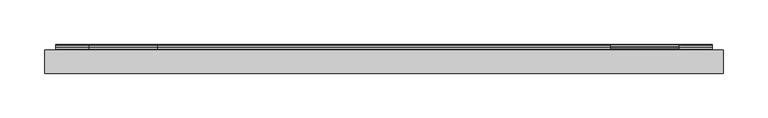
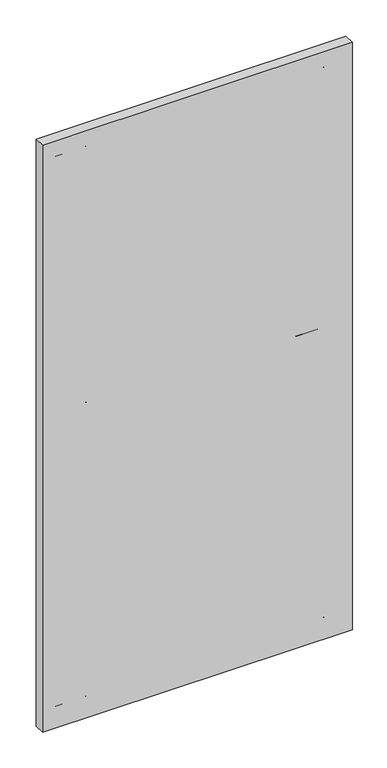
"""IFC4 building model written with IfcOpenShell, lengths in millimetres: furniture geometry, Geiger_GeigerOneCasegoods_WallTileTopTileorWallMounted : Vertical Veneer 30Wx 1.25Dx 60H."""

from ifc_helpers import new_model, si_unit, point, frame, frame_2d, origin, origin_with_axes, place, context, project, spatial, polyline, circle_curve, trimmed, segment, composite_curve, outline, extrude, source, transform, mapped, element, save


def furniture_6f389571(model_context):
    return source(origin(), model_context, "Body", "SweptSolid", [
        extrude(outline(composite_curve([segment(polyline([(2.8956, 38.227), (2.8956, 31.2928), (3.7084, 30.5054), (5.6134, 30.5054), (6.4008, 29.6926), (6.4008, -2.0066), (5.1054, -2.0066), (3.5052, -0.4064), (3.5052, 24.1808), (2.6924, 24.9936), (0.8128, 24.9936), (0.0, 25.781), (0.0, 39.1922)]), True, "CONTINUOUS"), segment(trimmed(circle_curve(frame_2d((0.8034421, 39.1828421)), 0.8034966), [point((0.0, 39.1922))], [point((1.3716, 39.751))], False, "CARTESIAN"), True, "CONTINUOUS"), segment(polyline([(1.3716, 39.751), (2.8956, 38.227)]), True, "CONTINUOUS")], self_intersect=False)), frame((12.5, 0.0, 0.0), z_axis=(1.0, 0.0, 0.0), x_axis=(0.0, 1.0, 0.0)), (0.0, 0.0, 1.0), 735.6),
        extrude(outline(composite_curve([segment(polyline([(-2.8956, 808.354), (-2.8956, 832.9412), (-1.2954, 834.5414), (0.0, 834.5414), (0.0, 802.8422), (-0.7864313, 802.0304), (-2.6913677, 802.0304), (-3.5052, 801.242), (-3.5052, 794.3078), (-5.0292, 792.7838)]), True, "CONTINUOUS"), segment(trimmed(circle_curve(frame_2d((-5.5973579, 793.3519579)), 0.8034966), [point((-5.0292, 792.7838))], [point((-6.4008, 793.3426))], False, "CARTESIAN"), True, "CONTINUOUS"), segment(polyline([(-6.4008, 793.3426), (-6.4008, 806.7538), (-5.588, 807.5412), (-3.7084, 807.5412), (-2.8956, 808.354)]), True, "CONTINUOUS")], self_intersect=False)), frame((634.6, 0.0, 0.0), z_axis=(1.0, 0.0, 0.0), x_axis=(0.0, 1.0, 0.0)), (0.0, 0.0, 1.0), 76.0),
        extrude(outline(composite_curve([segment(polyline([(3.5052, 794.3078), (3.5052, 801.242), (2.6913677, 802.0304), (0.7864312, 802.0304), (0.0, 802.8422), (0.0, 834.5414), (1.2954, 834.5414), (2.8956, 832.9412), (2.8956, 808.354), (3.7084, 807.5412), (5.588, 807.5412), (6.4008, 806.7538), (6.4008, 793.3426)]), True, "CONTINUOUS"), segment(trimmed(circle_curve(frame_2d((5.5973579, 793.3519579)), 0.8034966), [point((6.4008, 793.3426))], [point((5.0292, 792.7838))], False, "CARTESIAN"), True, "CONTINUOUS"), segment(polyline([(5.0292, 792.7838), (3.5052, 794.3078)]), True, "CONTINUOUS")], self_intersect=False)), frame((50.0, 0.0, 0.0), z_axis=(1.0, 0.0, 0.0), x_axis=(0.0, 1.0, 0.0)), (0.0, 0.0, 1.0), 76.0),
        extrude(outline(composite_curve([segment(polyline([(2.8956, 1472.8434), (3.7084, 1472.0306), (5.588, 1472.0306), (6.4008, 1471.2432), (6.4008, 1457.832)]), True, "CONTINUOUS"), segment(trimmed(circle_curve(frame_2d((5.5973579, 1457.8413579)), 0.8034966), [point((6.4008, 1457.832))], [point((5.0292, 1457.2732))], False, "CARTESIAN"), True, "CONTINUOUS"), segment(polyline([(5.0292, 1457.2732), (3.5052, 1458.7972), (3.5052, 1465.7314), (2.6913677, 1466.5198), (0.7864312, 1466.5198), (0.0, 1467.3316), (0.0, 1499.0308), (1.2954, 1499.0308), (2.8956, 1497.4306), (2.8956, 1472.8434)]), True, "CONTINUOUS")], self_intersect=False)), frame((634.6, 0.0, 0.0), z_axis=(1.0, 0.0, 0.0), x_axis=(0.0, 1.0, 0.0)), (0.0, 0.0, 1.0), 76.0),
        extrude(outline(composite_curve([segment(polyline([(3.5052, 1458.7972), (3.5052, 1465.7314), (2.6913677, 1466.5198), (0.7864312, 1466.5198), (0.0, 1467.3316), (0.0, 1499.0308), (1.2954, 1499.0308), (2.8956, 1497.4306), (2.8956, 1472.8434), (3.7084, 1472.0306), (5.588, 1472.0306), (6.4008, 1471.2432), (6.4008, 1457.832)]), True, "CONTINUOUS"), segment(trimmed(circle_curve(frame_2d((5.5973579, 1457.8413579)), 0.8034966), [point((6.4008, 1457.832))], [point((5.0292, 1457.2732))], False, "CARTESIAN"), True, "CONTINUOUS"), segment(polyline([(5.0292, 1457.2732), (3.5052, 1458.7972)]), True, "CONTINUOUS")], self_intersect=False)), frame((50.0, 0.0, 0.0), z_axis=(1.0, 0.0, 0.0), x_axis=(0.0, 1.0, 0.0)), (0.0, 0.0, 1.0), 76.0),
        extrude(outline(composite_curve([segment(polyline([(2.8956, 38.227), (2.8956, 31.2928), (3.7084, 30.5054), (5.6134, 30.5054), (6.4008, 29.6926), (6.4008, -2.0066), (5.1054, -2.0066), (3.5052, -0.4064), (3.5052, 24.1808), (2.6924, 24.9936), (0.8128, 24.9936), (0.0, 25.781), (0.0, 39.1922)]), True, "CONTINUOUS"), segment(trimmed(circle_curve(frame_2d((0.8034421, 39.1828421)), 0.8034966), [point((0.0, 39.1922))], [point((1.3716, 39.751))], False, "CARTESIAN"), True, "CONTINUOUS"), segment(polyline([(1.3716, 39.751), (2.8956, 38.227)]), True, "CONTINUOUS")], self_intersect=False)), frame((12.5, 0.0, 0.0), z_axis=(1.0, 0.0, 0.0), x_axis=(0.0, 1.0, 0.0)), (0.0, 0.0, 1.0), 735.6),
        extrude(outline(composite_curve([segment(polyline([(2.8956, 800.2524), (2.8956, 793.3182), (3.7084, 792.5308), (5.6134, 792.5308), (6.4008, 791.718), (6.4008, 760.0188), (5.1054, 760.0188), (3.5052, 761.619), (3.5052, 786.2062), (2.6924, 787.019), (0.8128, 787.019), (0.0, 787.8064), (0.0, 801.2176)]), True, "CONTINUOUS"), segment(trimmed(circle_curve(frame_2d((0.8034421, 801.2082421)), 0.8034966), [point((0.0, 801.2176))], [point((1.3716, 801.7764))], False, "CARTESIAN"), True, "CONTINUOUS"), segment(polyline([(1.3716, 801.7764), (2.8956, 800.2524)]), True, "CONTINUOUS")], self_intersect=False)), frame((12.5, 0.0, 0.0), z_axis=(1.0, 0.0, 0.0), x_axis=(0.0, 1.0, 0.0)), (0.0, 0.0, 1.0), 735.6),
        extrude(outline(composite_curve([segment(polyline([(2.8956, 1464.7418), (2.8956, 1457.8076), (3.7084, 1457.0202), (5.6134, 1457.0202), (6.4008, 1456.2074), (6.4008, 1424.5082), (5.1054, 1424.5082), (3.5052, 1426.1084), (3.5052, 1450.6956), (2.6924, 1451.5084), (0.8128, 1451.5084), (0.0, 1452.2958), (0.0, 1465.707)]), True, "CONTINUOUS"), segment(trimmed(circle_curve(frame_2d((0.8034421, 1465.6976421)), 0.8034966), [point((0.0, 1465.707))], [point((1.3716, 1466.2658))], False, "CARTESIAN"), True, "CONTINUOUS"), segment(polyline([(1.3716, 1466.2658), (2.8956, 1464.7418)]), True, "CONTINUOUS")], self_intersect=False)), frame((12.5, 0.0, 0.0), z_axis=(1.0, 0.0, 0.0), x_axis=(0.0, 1.0, 0.0)), (0.0, 0.0, 1.0), 735.6),
        extrude(outline(composite_curve([segment(polyline([(2.8956, 46.3286), (3.7084, 45.5158), (5.588, 45.5158), (6.4008, 44.7284), (6.4008, 31.3172)]), True, "CONTINUOUS"), segment(trimmed(circle_curve(frame_2d((5.5973579, 31.3265579)), 0.8034966), [point((6.4008, 31.3172))], [point((5.0292, 30.7584))], False, "CARTESIAN"), True, "CONTINUOUS"), segment(polyline([(5.0292, 30.7584), (3.5052, 32.2824), (3.5052, 39.2166), (2.6913677, 40.005), (0.7864312, 40.005), (0.0, 40.8168), (0.0, 72.516), (1.2954, 72.516), (2.8956, 70.9158), (2.8956, 46.3286)]), True, "CONTINUOUS")], self_intersect=False)), frame((634.6, 0.0, 0.0), z_axis=(1.0, 0.0, 0.0), x_axis=(0.0, 1.0, 0.0)), (0.0, 0.0, 1.0), 76.0),
        extrude(outline(composite_curve([segment(polyline([(3.5052, 32.2824), (3.5052, 39.2166), (2.6913677, 40.005), (0.7864312, 40.005), (0.0, 40.8168), (0.0, 72.516), (1.2954, 72.516), (2.8956, 70.9158), (2.8956, 46.3286), (3.7084, 45.5158), (5.588, 45.5158), (6.4008, 44.7284), (6.4008, 31.3172)]), True, "CONTINUOUS"), segment(trimmed(circle_curve(frame_2d((5.5973579, 31.3265579)), 0.8034966), [point((6.4008, 31.3172))], [point((5.0292, 30.7584))], False, "CARTESIAN"), True, "CONTINUOUS"), segment(polyline([(5.0292, 30.7584), (3.5052, 32.2824)]), True, "CONTINUOUS")], self_intersect=False)), frame((50.0, 0.0, 0.0), z_axis=(1.0, 0.0, 0.0), x_axis=(0.0, 1.0, 0.0)), (0.0, 0.0, 1.0), 76.0),
        extrude(outline(polyline([(760.6, 0.0), (760.6, -26.0), (0.0, -26.0), (0.0, 0.0), (760.6, 0.0)])), origin_with_axes(), (0.0, 0.0, 1.0), 1523.0),
    ])


if __name__ == "__main__":
    model = new_model("IFC4")
    model_context = context("Model", 3, world=origin())
    ifc_project = project(units=[si_unit("LENGTHUNIT", "METRE", prefix="MILLI")], contexts=[model_context])
    site = spatial("IfcSite", under=ifc_project)
    building = spatial("IfcBuilding", under=site)
    placement = place(None, origin())
    furniture_shape = furniture_6f389571(model_context)
    element("IfcFurniture", 1, ObjectType="Geiger_GeigerOneCasegoods_WallTileTopTileorWallMounted : Vertical Veneer 30Wx 1.25Dx 60H", at=placement, inside=building, context=model_context, shape_type="MappedRepresentation", body=[
        mapped(furniture_shape, transform((0.0, 0.0, 0.0), x_axis=(1.0, 0.0, 0.0), y_axis=(0.0, 1.0, 0.0), z_axis=(0.0, 0.0, 1.0))),
    ])
    save(model, "model.ifc")
